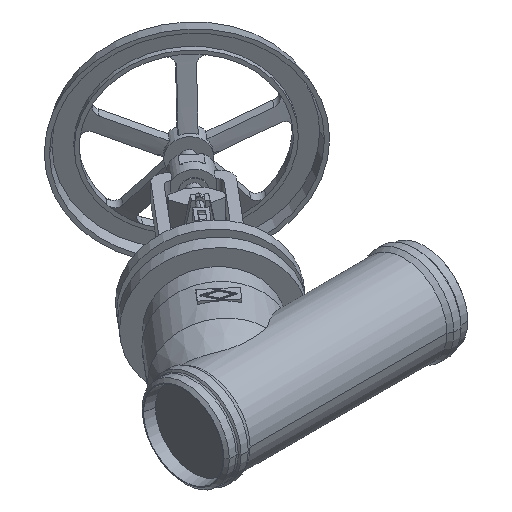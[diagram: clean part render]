
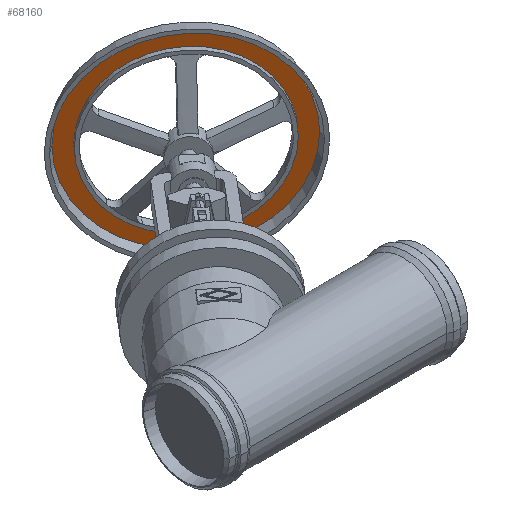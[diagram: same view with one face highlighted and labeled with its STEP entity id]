
A CAD part, isometric view. The second image highlights one B-rep face of the part: STEP entity #68160.
In plain terms, the highlighted planar face has unit normal (-0.643, -0.766, 0).
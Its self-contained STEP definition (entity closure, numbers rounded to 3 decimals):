
#67610=CARTESIAN_POINT('',(653.676,384.579,
0.));
#67620=VERTEX_POINT('',#67610);
#67650=CARTESIAN_POINT('',(509.918,505.206,0.));
#67660=DIRECTION('',(0.643,0.766,0.));
#67670=DIRECTION('',(-0.766,0.643,
0.));
#67680=AXIS2_PLACEMENT_3D('',#67650,#67660,#67670);
#67690=CIRCLE('',#67680,187.662);
#67700=CARTESIAN_POINT('',(366.161,625.833,0.));
#67710=VERTEX_POINT('',#67700);
#67720=EDGE_CURVE('',#67710,#67620,#67690,.T.);
#67910=CARTESIAN_POINT('',(377.905,615.979,
0.));
#67920=DIRECTION('',(-0.643,-0.766,0.));
#67930=DIRECTION('',(0.766,-0.643,
0.));
#67940=AXIS2_PLACEMENT_3D('',#67910,#67920,#67930);
#67950=PLANE('',#67940);
#67960=EDGE_CURVE('',#67620,#67710,#67690,.T.);
#67970=ORIENTED_EDGE('',*,*,#67960,.F.);
#67980=ORIENTED_EDGE('',*,*,#67720,.F.);
#67990=EDGE_LOOP('',(#67980,#67970));
#68000=FACE_OUTER_BOUND('',#67990,.T.);
#68010=CARTESIAN_POINT('',(509.918,505.206,0.));
#68020=DIRECTION('',(0.643,0.766,
0.));
#68030=DIRECTION('',(-0.766,0.643,
0.));
#68040=AXIS2_PLACEMENT_3D('',#68010,#68020,#68030);
#68050=CIRCLE('',#68040,157.);
#68060=CARTESIAN_POINT('',(389.649,606.124,
0.));
#68070=VERTEX_POINT('',#68060);
#68080=CARTESIAN_POINT('',(630.187,404.289,
0.));
#68090=VERTEX_POINT('',#68080);
#68100=EDGE_CURVE('',#68070,#68090,#68050,.T.);
#68110=ORIENTED_EDGE('',*,*,#68100,.T.);
#68120=EDGE_CURVE('',#68090,#68070,#68050,.T.);
#68130=ORIENTED_EDGE('',*,*,#68120,.T.);
#68140=EDGE_LOOP('',(#68130,#68110));
#68150=FACE_BOUND('',#68140,.T.);
#68160=ADVANCED_FACE('',(#68000,#68150),#67950,.T.);
